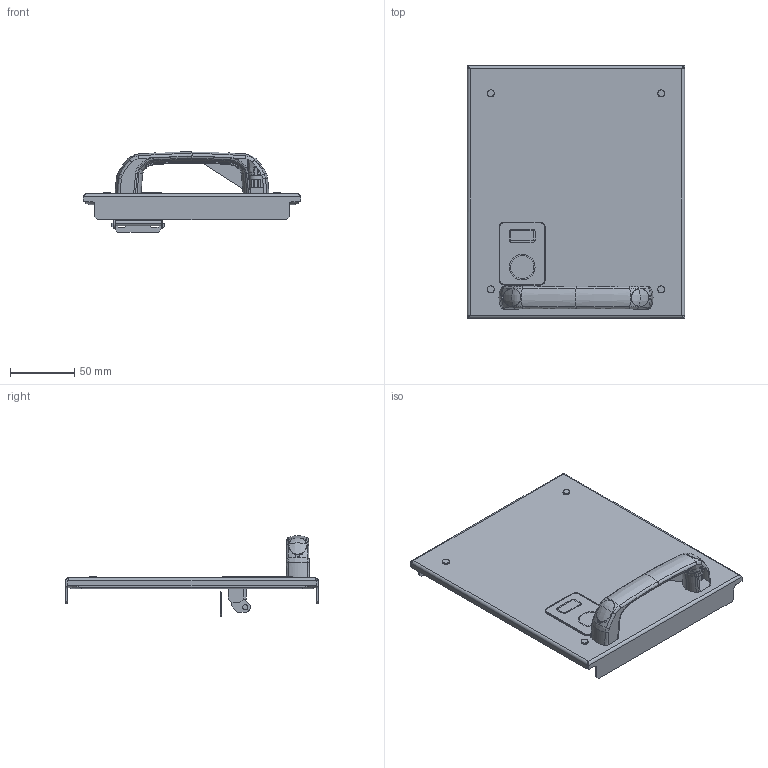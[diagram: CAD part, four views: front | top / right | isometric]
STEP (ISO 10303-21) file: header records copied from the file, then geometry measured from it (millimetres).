
FILE_DESCRIPTION(('CAx-IF Rec.Pracs.---Model Styling and Organization---1.2---2011-12-15','CAx-IF Rec.Pracs.---Geometric and Assembly Validation Properties---4.1---2014-06-16','CAx-IF Rec.Pracs.---PMI Polyline Presentation---2.0---2013-05-24'),'2;1');
FILE_NAME('R5M2W4M3BF.stp','2021-05-05T12:23:28+03:00',(''),(''),'STEP Interface 4.4 by CT CoreTechnologie','3D_Evolution4.4 by CT CoreTechnologie','');
FILE_SCHEMA(('AUTOMOTIVE_DESIGN { 1 0 10303 214 1 1 1 1 }'));
Length unit declared in the file: millimetre
Products named in the file (16): R5M2W4M3BF; 5-GOST 11371-78 (DIN 125) PA 6.6_5-GOST 11371-78 (DIN 125) PA 6.6; RB.1215.01.00.0 ÑÁ_-02; RB.1503.00.06.0_-00; RB.1503.00.07.0_-00; RB.1503.00.08.0_'­ ª«¥¥­­ ï'; RB.1215.01.01.0_-02; RB.1503.00.03.0_123; RB.1503.00.04.0_123; RB.1503.00.05.0_123; PF 7x14 RAMmcc 2.0_1x3_; AC00C061_AC00C061; Ì6õ12-A5100231_straight; 4.444.001; PR.DT477.100.02; PR.DT477.100.01
Assembly tree (18 placements, depth 3):
  R5M2W4M3BF
    5-GOST 11371-78 (DIN 125) PA 6.6_5-GOST 11371-78 (DIN 125) PA 6.6  x4
    RB.1215.01.00.0 ÑÁ_-02
      RB.1503.00.06.0_-00
      RB.1503.00.07.0_-00
      RB.1215.01.01.0_-02
      RB.1503.00.03.0_123
      RB.1503.00.04.0_123
      RB.1503.00.05.0_123
      PF 7x14 RAMmcc 2.0_1x3_
      AC00C061_AC00C061
      Ì6õ12-A5100231_straight
    4.444.001
      PR.DT477.100.02  x2
      PR.DT477.100.01
  RB.1503.00.08.0_'­ ª«¥¥­­ ï'
Bounding box: 169.5 x 197 x 62.85 mm (x, y, z)
Surface area: 134544.2 mm2 (no closed solid volume)
Topology: 0 solids, 24 shells, 1132 faces, 2749 edges, 1666 vertices
Faces by surface type: bspline 596, plane 385, cylinder 151
Entity records: 47001 total; most frequent: CARTESIAN_POINT 23696, ORIENTED_EDGE 4988, DIRECTION 4439, EDGE_CURVE 2494, AXIS2_PLACEMENT_3D 1678, VERTEX_POINT 1517, CIRCLE 1192, VECTOR 1083
